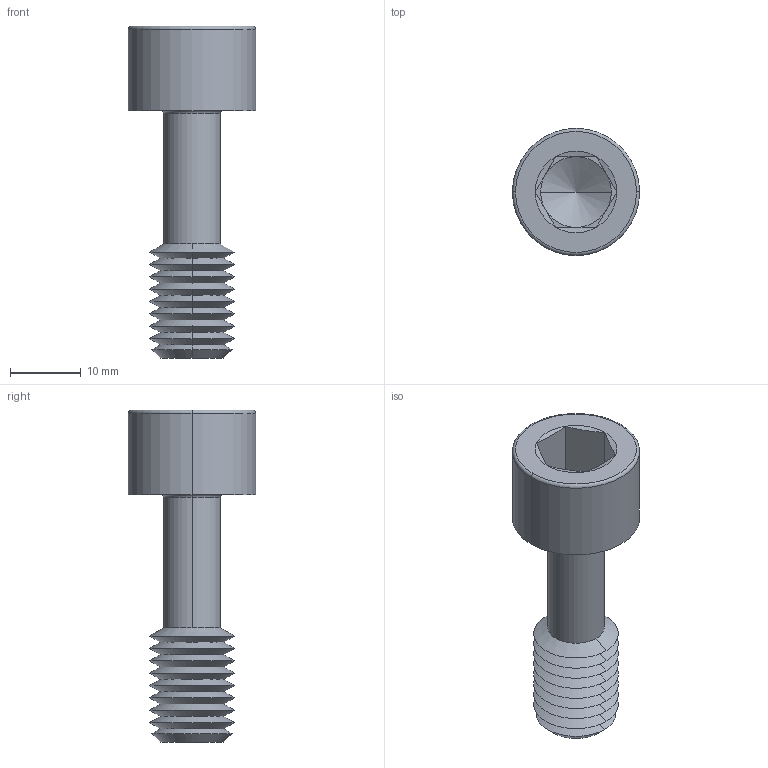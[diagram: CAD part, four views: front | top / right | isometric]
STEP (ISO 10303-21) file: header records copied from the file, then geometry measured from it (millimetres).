
FILE_DESCRIPTION (( 'STEP AP203' ), '1' );
FILE_NAME ('P0154.120-035-BL.step', '2024-06-17T11:36:11', ( '' ), ( '' ), 'SwSTEP 2.0', 'SolidWorks 2019', '' );
FILE_SCHEMA (( 'CONFIG_CONTROL_DESIGN' ));
Length unit declared in the file: millimetre
Products named in the file (1): P0154.120-035-BL
Bounding box: 18 x 18 x 47 mm (x, y, z)
Volume: 4442.4 mm3; surface area: 3048.4 mm2
Topology: 1 solids, 1 shells, 67 faces, 136 edges, 71 vertices
Faces by surface type: cone 44, plane 15, torus 4, cylinder 4
Entity records: 1791 total; most frequent: DIRECTION 332, CARTESIAN_POINT 303, ORIENTED_EDGE 268, AXIS2_PLACEMENT_3D 136, EDGE_CURVE 134, VERTEX_POINT 71, EDGE_LOOP 69, CIRCLE 68
